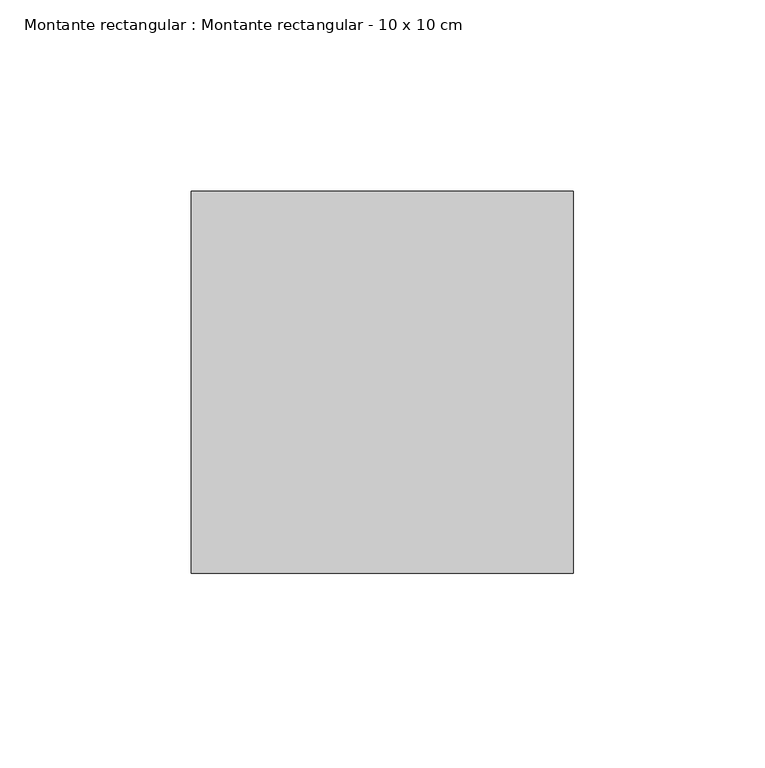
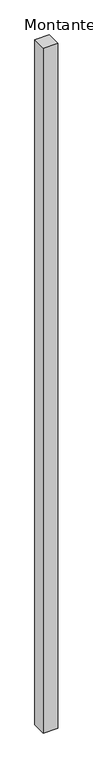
"""IFC4 building model written with IfcOpenShell, lengths in millimetres: member geometry, Montante rectangular : Montante rectangular - 10 x 10 cm."""

from ifc_helpers import new_model, si_unit, frame, origin, place, context, project, spatial, polyline, outline, extrude, source, transform, mapped, element, save


def montante_rectangular_montante_rectangular_10_x_10_cm_9910a803(model_context):
    return source(origin(), model_context, "Body", "SweptSolid", [
        extrude(outline(polyline([(0.0, 50.0), (0.0, -50.0), (-100.0, -50.0), (-100.0, 50.0), (0.0, 50.0)])), frame((0.0, 0.0, -5000.0), z_axis=(0.0, 0.0, 1.0), x_axis=(1.0, 0.0, 0.0)), (0.0, 0.0, 1.0), 5000.0),
    ])


if __name__ == "__main__":
    model = new_model("IFC4")
    model_context = context("Model", 3, world=origin())
    ifc_project = project(units=[si_unit("LENGTHUNIT", "METRE", prefix="MILLI")], contexts=[model_context])
    site = spatial("IfcSite", under=ifc_project)
    building = spatial("IfcBuilding", under=site)
    placement = place(None, origin())
    montante_rectangular_montante_rectangular_10_x_10_cm_shape = montante_rectangular_montante_rectangular_10_x_10_cm_9910a803(model_context)
    element("IfcMember", 1, ObjectType="Montante rectangular : Montante rectangular - 10 x 10 cm", at=placement, inside=building, context=model_context, shape_type="MappedRepresentation", body=[
        mapped(montante_rectangular_montante_rectangular_10_x_10_cm_shape, transform((0.0, 0.0, 0.0), x_axis=(1.0, 0.0, 0.0), y_axis=(0.0, 1.0, 0.0), z_axis=(0.0, 0.0, 1.0))),
    ])
    save(model, "model.ifc")
